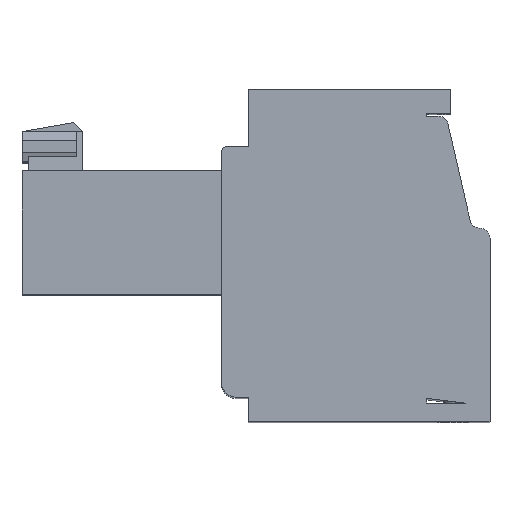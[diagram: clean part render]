
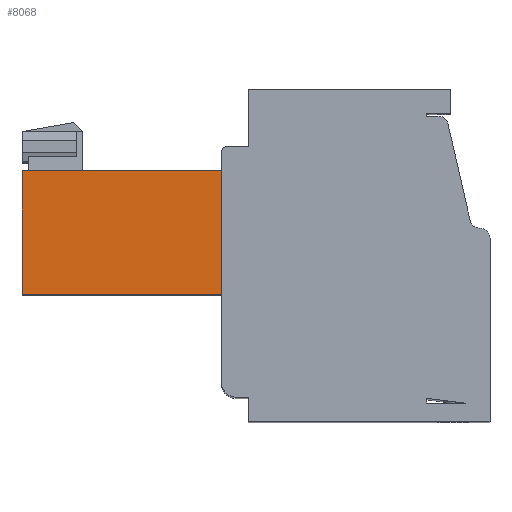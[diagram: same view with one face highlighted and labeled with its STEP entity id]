
A CAD part, top view. The second image highlights one B-rep face of the part: STEP entity #8068.
In plain terms, the highlighted planar face has unit normal (-0.015, 0, 1).
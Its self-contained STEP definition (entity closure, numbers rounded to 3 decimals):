
#3736 = VERTEX_POINT ( 'NONE', #17250 ) ;
#3776 = VERTEX_POINT ( 'NONE', #17269 ) ;
#3830 = EDGE_CURVE ( 'NONE', #3776, #3736, #17487, .T. ) ;
#8068 = ADVANCED_FACE ( 'NONE', ( #11345 ), #11353, .F. ) ;
#11076 = EDGE_CURVE ( 'NONE', #33155, #3776, #11862, .T. ) ;
#11340 = DIRECTION ( 'NONE',  ( -1., 0., -0.015 ) ) ;
#11341 = DIRECTION ( 'NONE',  ( 0.015, 0., -1. ) ) ;
#11342 = CARTESIAN_POINT ( 'NONE',  ( -3.65, 4., -0.3 ) ) ;
#11343 = AXIS2_PLACEMENT_3D ( 'NONE', #11342, #11341, #11340 ) ;
#11345 = FACE_OUTER_BOUND ( 'NONE', #30122, .T. ) ;
#11353 = PLANE ( 'NONE',  #11343 ) ;
#11858 = DIRECTION ( 'NONE',  ( -1., 0., -0.015 ) ) ;
#11859 = VECTOR ( 'NONE', #11858, 1000. ) ;
#11861 = CARTESIAN_POINT ( 'NONE',  ( -3.645, 4.2, -0.3 ) ) ;
#11862 = LINE ( 'NONE', #11861, #11859 ) ;
#12644 = DIRECTION ( 'NONE',  ( -1., 0., -0.015 ) ) ;
#12645 = VECTOR ( 'NONE', #12644, 1000. ) ;
#12646 = CARTESIAN_POINT ( 'NONE',  ( -3.65, 8.3, -0.3 ) ) ;
#12649 = LINE ( 'NONE', #12646, #12645 ) ;
#15497 = ORIENTED_EDGE ( 'NONE', *, *, #17028, .T. ) ;
#16473 = ORIENTED_EDGE ( 'NONE', *, *, #33245, .T. ) ;
#17028 = EDGE_CURVE ( 'NONE', #33795, #3736, #12649, .T. ) ;
#17033 = ORIENTED_EDGE ( 'NONE', *, *, #3830, .F. ) ;
#17045 = ORIENTED_EDGE ( 'NONE', *, *, #11076, .F. ) ;
#17250 = CARTESIAN_POINT ( 'NONE',  ( -10.243, 8.3, -0.4 ) ) ;
#17269 = CARTESIAN_POINT ( 'NONE',  ( -10.243, 4.2, -0.4 ) ) ;
#17483 = DIRECTION ( 'NONE',  ( 0., 1., 0. ) ) ;
#17485 = VECTOR ( 'NONE', #17483, 1000. ) ;
#17486 = CARTESIAN_POINT ( 'NONE',  ( -10.243, 4., -0.4 ) ) ;
#17487 = LINE ( 'NONE', #17486, #17485 ) ;
#23581 = CARTESIAN_POINT ( 'NONE',  ( -3.65, 4.2, -0.3 ) ) ;
#23945 = DIRECTION ( 'NONE',  ( 0., 1., 0. ) ) ;
#23946 = VECTOR ( 'NONE', #23945, 1000. ) ;
#23949 = CARTESIAN_POINT ( 'NONE',  ( -3.65, 4., -0.3 ) ) ;
#23951 = LINE ( 'NONE', #23949, #23946 ) ;
#25873 = CARTESIAN_POINT ( 'NONE',  ( -3.65, 8.3, -0.3 ) ) ;
#30122 = EDGE_LOOP ( 'NONE', ( #16473, #15497, #17033, #17045 ) ) ;
#33155 = VERTEX_POINT ( 'NONE', #23581 ) ;
#33245 = EDGE_CURVE ( 'NONE', #33155, #33795, #23951, .T. ) ;
#33795 = VERTEX_POINT ( 'NONE', #25873 ) ;
